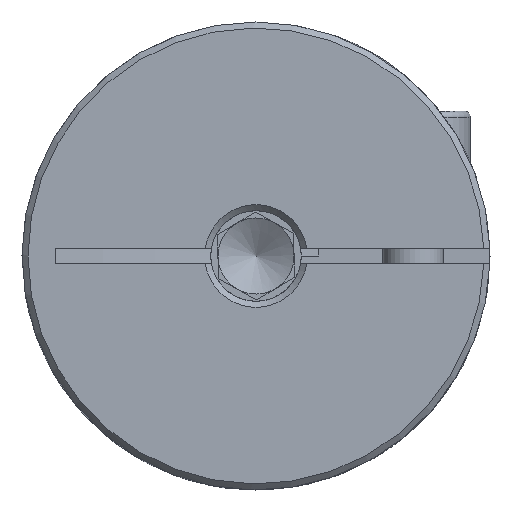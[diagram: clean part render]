
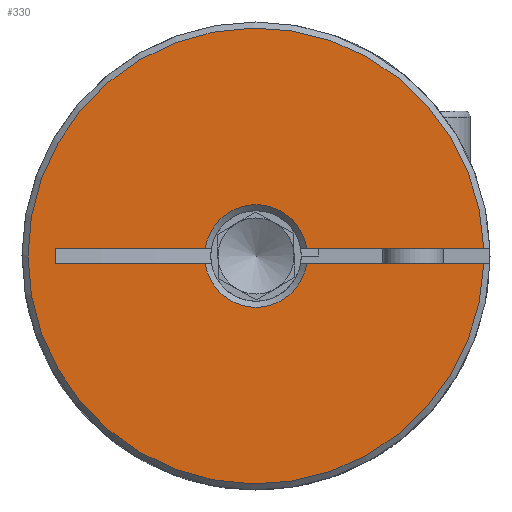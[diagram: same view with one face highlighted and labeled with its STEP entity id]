
A CAD part, left-side view. The second image highlights one B-rep face of the part: STEP entity #330.
In plain terms, the highlighted planar face has unit normal (-1, 0, 0).
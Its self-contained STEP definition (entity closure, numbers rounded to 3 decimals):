
#330 = ADVANCED_FACE( 'NONE', ( #726 ), #727, .F. );
#726 = FACE_OUTER_BOUND( '', #1278, .T. );
#727 = PLANE( '', #1279 );
#1278 = EDGE_LOOP( '', ( #1915, #1916, #1917, #1918, #1919, #1920, #1921, #1922 ) );
#1279 = AXIS2_PLACEMENT_3D( '', #1923, #1924, #1925 );
#1915 = ORIENTED_EDGE( '', *, *, #2800, .T. );
#1916 = ORIENTED_EDGE( '', *, *, #2801, .T. );
#1917 = ORIENTED_EDGE( '', *, *, #2802, .T. );
#1918 = ORIENTED_EDGE( '', *, *, #2803, .T. );
#1919 = ORIENTED_EDGE( '', *, *, #2804, .F. );
#1920 = ORIENTED_EDGE( '', *, *, #2805, .T. );
#1921 = ORIENTED_EDGE( '', *, *, #2806, .F. );
#1922 = ORIENTED_EDGE( '', *, *, #2718, .T. );
#1923 = CARTESIAN_POINT( '', ( 0., 1.5, 0. ) );
#1924 = DIRECTION( '', ( 1., 0., 0. ) );
#1925 = DIRECTION( '', ( 0., 1., 0. ) );
#2718 = EDGE_CURVE( 'NONE', #3099, #3103, #3105, .T. );
#2800 = EDGE_CURVE( 'NONE', #3103, #3234, #3235, .T. );
#2801 = EDGE_CURVE( 'NONE', #3234, #3236, #3237, .T. );
#2802 = EDGE_CURVE( 'NONE', #3236, #3238, #3239, .T. );
#2803 = EDGE_CURVE( 'NONE', #3238, #3240, #3241, .T. );
#2804 = EDGE_CURVE( 'NONE', #3242, #3240, #3243, .T. );
#2805 = EDGE_CURVE( 'NONE', #3242, #3244, #3245, .T. );
#2806 = EDGE_CURVE( 'NONE', #3099, #3244, #3246, .T. );
#3099 = VERTEX_POINT( 'NONE', #3617 );
#3103 = VERTEX_POINT( 'NONE', #3624 );
#3105 = LINE( '', #3626, #3627 );
#3234 = VERTEX_POINT( 'NONE', #3806 );
#3235 = LINE( '', #3807, #3808 );
#3236 = VERTEX_POINT( 'NONE', #3809 );
#3237 = CIRCLE( '', #3810, 1.7 );
#3238 = VERTEX_POINT( 'NONE', #3811 );
#3239 = LINE( '', #3812, #3813 );
#3240 = VERTEX_POINT( 'NONE', #3814 );
#3241 = CIRCLE( '', #3815, 7.55 );
#3242 = VERTEX_POINT( 'NONE', #3816 );
#3243 = LINE( '', #3817, #3818 );
#3244 = VERTEX_POINT( 'NONE', #3819 );
#3245 = CIRCLE( '', #3820, 1.7 );
#3246 = LINE( '', #3821, #3822 );
#3617 = CARTESIAN_POINT( '', ( 0., 6.624, -0.25 ) );
#3624 = CARTESIAN_POINT( '', ( 0., 6.624, 0.25 ) );
#3626 = CARTESIAN_POINT( '', ( 0., 6.624, -0.25 ) );
#3627 = VECTOR( '', #4293, 1000. );
#3806 = CARTESIAN_POINT( '', ( 0., 1.682, 0.25 ) );
#3807 = CARTESIAN_POINT( '', ( 0., 1.5, 0.25 ) );
#3808 = VECTOR( '', #4423, 1000. );
#3809 = CARTESIAN_POINT( '', ( 0., -1.682, 0.25 ) );
#3810 = AXIS2_PLACEMENT_3D( '', #4424, #4425, #4426 );
#3811 = CARTESIAN_POINT( '', ( 0., -7.546, 0.25 ) );
#3812 = CARTESIAN_POINT( '', ( 0., 1.5, 0.25 ) );
#3813 = VECTOR( '', #4427, 1000. );
#3814 = CARTESIAN_POINT( '', ( 0., -7.546, -0.25 ) );
#3815 = AXIS2_PLACEMENT_3D( '', #4428, #4429, #4430 );
#3816 = CARTESIAN_POINT( '', ( 0., -1.682, -0.25 ) );
#3817 = CARTESIAN_POINT( '', ( 0., 1.5, -0.25 ) );
#3818 = VECTOR( '', #4431, 1000. );
#3819 = CARTESIAN_POINT( '', ( 0., 1.682, -0.25 ) );
#3820 = AXIS2_PLACEMENT_3D( '', #4432, #4433, #4434 );
#3821 = CARTESIAN_POINT( '', ( 0., 1.5, -0.25 ) );
#3822 = VECTOR( '', #4435, 1000. );
#4293 = DIRECTION( '', ( 0., 0., 1. ) );
#4423 = DIRECTION( '', ( 0., -1., 0. ) );
#4424 = CARTESIAN_POINT( '', ( 0., 0., 0. ) );
#4425 = DIRECTION( '', ( 1., 0., 0. ) );
#4426 = DIRECTION( '', ( 0., 0., -1. ) );
#4427 = DIRECTION( '', ( 0., -1., 0. ) );
#4428 = CARTESIAN_POINT( '', ( 0., 0., 0. ) );
#4429 = DIRECTION( '', ( -1., 0., 0. ) );
#4430 = DIRECTION( '', ( 0., 0., -1. ) );
#4431 = DIRECTION( '', ( 0., -1., 0. ) );
#4432 = CARTESIAN_POINT( '', ( 0., 0., 0. ) );
#4433 = DIRECTION( '', ( 1., 0., 0. ) );
#4434 = DIRECTION( '', ( 0., 0., -1. ) );
#4435 = DIRECTION( '', ( 0., -1., 0. ) );
